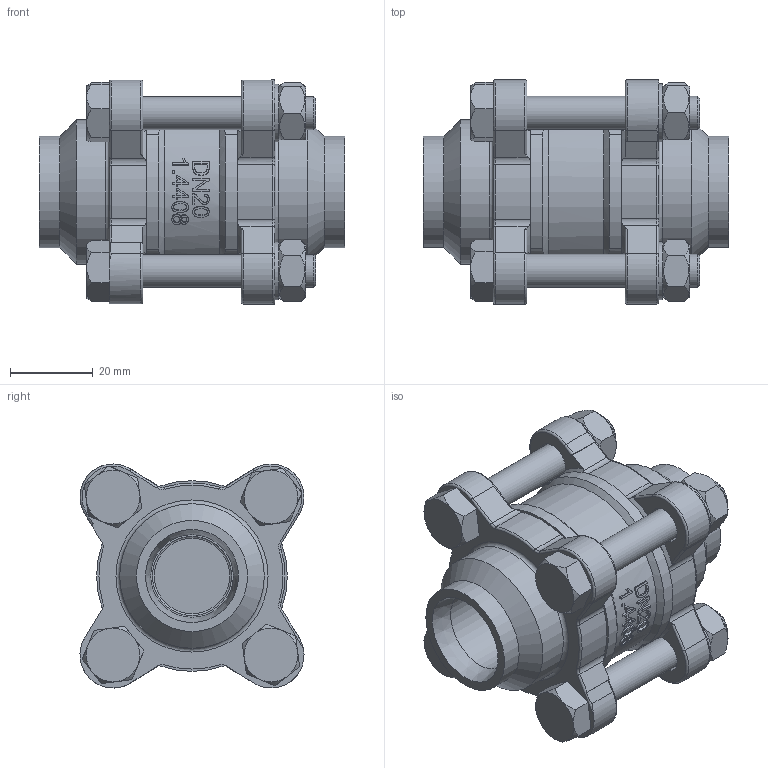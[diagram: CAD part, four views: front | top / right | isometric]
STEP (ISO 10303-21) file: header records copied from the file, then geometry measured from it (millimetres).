
FILE_DESCRIPTION(/* description */ ('Unknown'),/* implementation_level */ '2;1');
FILE_NAME(/* name */ 'WA-002-S008-DN20',/* time_stamp */ '2022-10-11T15:29:40+08:00',/* author */ ('Unknown'),/* organization */ ('Unknown'),/* preprocessor_version */ 'ST-DEVELOPER v16.7',/* originating_system */ 'DEX',/* authorisation */ $);
FILE_SCHEMA (('AUTOMOTIVE_DESIGN {1 0 10303 214 3 1 1}'));
Length unit declared in the file: millimetre
Products named in the file (6): WA-002-S008-DN20; WA-002-S008-DN20-BODY; WA-002-S008-DN20-CAP; M8 BOLT-1; M8 WASHER; M8 NUT
Assembly tree (15 placements, depth 2):
  WA-002-S008-DN20
    WA-002-S008-DN20-BODY
    WA-002-S008-DN20-CAP  x2
    M8 BOLT-1  x4
    M8 WASHER  x4
    M8 NUT  x4
Bounding box: 74 x 54.19 x 54.19 mm (x, y, z)
Volume: 79631.1 mm3; surface area: 42182.7 mm2
Topology: 16 solids, 16 shells, 519 faces, 1270 edges, 816 vertices
Faces by surface type: plane 232, cylinder 159, cone 61, torus 38, bspline 29
Full cylindrical faces by diameter (mm): 6.961 x1, 8 x12, 9 x8, 12.182 x1, 14 x4, 20 x2, 21.753 x1, 26.9 x2, 27.409 x1, 35 x2, 37.004 x1, 37.415 x1, 43.506 x1
Entity records: 14980 total; most frequent: CARTESIAN_POINT 6900, DIRECTION 1597, ORIENTED_EDGE 1590, EDGE_CURVE 795, AXIS2_PLACEMENT_3D 619, VERTEX_POINT 545, EDGE_LOOP 444, FACE_BOUND 444
